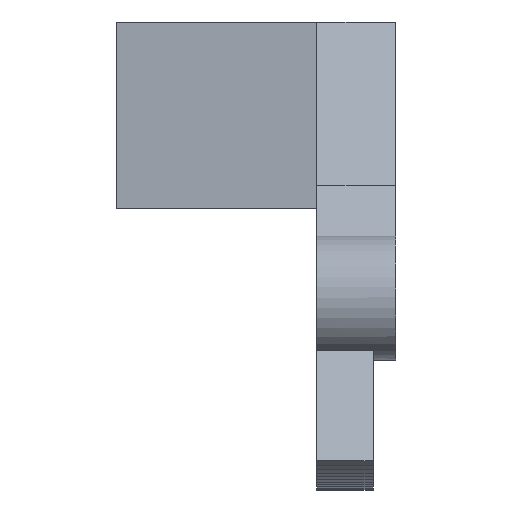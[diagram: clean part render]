
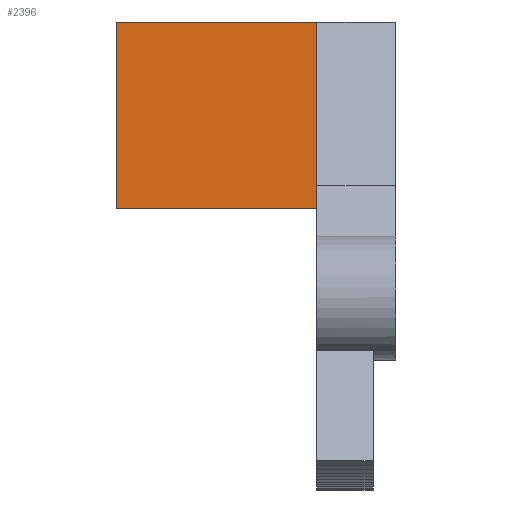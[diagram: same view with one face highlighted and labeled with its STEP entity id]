
A CAD part, top view. The second image highlights one B-rep face of the part: STEP entity #2396.
In plain terms, the highlighted planar face has unit normal (0, 0, 1).
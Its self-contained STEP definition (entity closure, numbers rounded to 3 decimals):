
#102 = PLANE('',#103);
#103 = AXIS2_PLACEMENT_3D('',#104,#105,#106);
#104 = CARTESIAN_POINT('',(6.5,0.,0.));
#105 = DIRECTION('',(1.,-0.,-0.));
#106 = DIRECTION('',(0.,0.,-1.));
#328 = PLANE('',#329);
#329 = AXIS2_PLACEMENT_3D('',#330,#331,#332);
#330 = CARTESIAN_POINT('',(6.5,49.,-34.));
#331 = DIRECTION('',(-0.,1.,-0.));
#332 = DIRECTION('',(0.,0.,-1.));
#549 = VERTEX_POINT('',#550);
#550 = CARTESIAN_POINT('',(6.5,49.,-30.));
#571 = EDGE_CURVE('',#572,#549,#574,.T.);
#572 = VERTEX_POINT('',#573);
#573 = CARTESIAN_POINT('',(6.5,16.,-30.));
#574 = SURFACE_CURVE('',#575,(#579,#586),.PCURVE_S1.);
#575 = LINE('',#576,#577);
#576 = CARTESIAN_POINT('',(6.5,24.5,-30.));
#577 = VECTOR('',#578,1.);
#578 = DIRECTION('',(-0.,1.,-0.));
#579 = PCURVE('',#102,#580);
#580 = DEFINITIONAL_REPRESENTATION('',(#581),#585);
#581 = LINE('',#582,#583);
#582 = CARTESIAN_POINT('',(30.,24.5));
#583 = VECTOR('',#584,1.);
#584 = DIRECTION('',(-0.,1.));
#585 = ( GEOMETRIC_REPRESENTATION_CONTEXT(2) 
PARAMETRIC_REPRESENTATION_CONTEXT() REPRESENTATION_CONTEXT('2D SPACE',''
  ) );
#586 = PCURVE('',#587,#592);
#587 = PLANE('',#588);
#588 = AXIS2_PLACEMENT_3D('',#589,#590,#591);
#589 = CARTESIAN_POINT('',(-29.,49.,-30.));
#590 = DIRECTION('',(0.,0.,1.));
#591 = DIRECTION('',(-1.,0.,0.));
#592 = DEFINITIONAL_REPRESENTATION('',(#593),#597);
#593 = LINE('',#594,#595);
#594 = CARTESIAN_POINT('',(-35.5,24.5));
#595 = VECTOR('',#596,1.);
#596 = DIRECTION('',(-0.,-1.));
#597 = ( GEOMETRIC_REPRESENTATION_CONTEXT(2) 
PARAMETRIC_REPRESENTATION_CONTEXT() REPRESENTATION_CONTEXT('2D SPACE',''
  ) );
#615 = PLANE('',#616);
#616 = AXIS2_PLACEMENT_3D('',#617,#618,#619);
#617 = CARTESIAN_POINT('',(-29.,16.,-58.));
#618 = DIRECTION('',(0.,-1.,0.));
#619 = DIRECTION('',(0.,0.,-1.));
#2078 = EDGE_CURVE('',#2079,#549,#2081,.T.);
#2079 = VERTEX_POINT('',#2080);
#2080 = CARTESIAN_POINT('',(-29.,49.,-30.));
#2081 = SURFACE_CURVE('',#2082,(#2086,#2093),.PCURVE_S1.);
#2082 = LINE('',#2083,#2084);
#2083 = CARTESIAN_POINT('',(-29.,49.,-30.));
#2084 = VECTOR('',#2085,1.);
#2085 = DIRECTION('',(1.,0.,-0.));
#2086 = PCURVE('',#328,#2087);
#2087 = DEFINITIONAL_REPRESENTATION('',(#2088),#2092);
#2088 = LINE('',#2089,#2090);
#2089 = CARTESIAN_POINT('',(-4.,35.5));
#2090 = VECTOR('',#2091,1.);
#2091 = DIRECTION('',(-0.,-1.));
#2092 = ( GEOMETRIC_REPRESENTATION_CONTEXT(2) 
PARAMETRIC_REPRESENTATION_CONTEXT() REPRESENTATION_CONTEXT('2D SPACE',''
  ) );
#2093 = PCURVE('',#587,#2094);
#2094 = DEFINITIONAL_REPRESENTATION('',(#2095),#2099);
#2095 = LINE('',#2096,#2097);
#2096 = CARTESIAN_POINT('',(-0.,-0.));
#2097 = VECTOR('',#2098,1.);
#2098 = DIRECTION('',(-1.,0.));
#2099 = ( GEOMETRIC_REPRESENTATION_CONTEXT(2) 
PARAMETRIC_REPRESENTATION_CONTEXT() REPRESENTATION_CONTEXT('2D SPACE',''
  ) );
#2117 = PLANE('',#2118);
#2118 = AXIS2_PLACEMENT_3D('',#2119,#2120,#2121);
#2119 = CARTESIAN_POINT('',(-29.,49.,-58.));
#2120 = DIRECTION('',(1.,-0.,-0.));
#2121 = DIRECTION('',(0.,0.,-1.));
#2396 = ADVANCED_FACE('',(#2397),#587,.T.);
#2397 = FACE_BOUND('',#2398,.F.);
#2398 = EDGE_LOOP('',(#2399,#2422,#2443,#2444));
#2399 = ORIENTED_EDGE('',*,*,#2400,.F.);
#2400 = EDGE_CURVE('',#2401,#572,#2403,.T.);
#2401 = VERTEX_POINT('',#2402);
#2402 = CARTESIAN_POINT('',(-29.,16.,-30.));
#2403 = SURFACE_CURVE('',#2404,(#2408,#2415),.PCURVE_S1.);
#2404 = LINE('',#2405,#2406);
#2405 = CARTESIAN_POINT('',(-29.,16.,-30.));
#2406 = VECTOR('',#2407,1.);
#2407 = DIRECTION('',(1.,0.,-0.));
#2408 = PCURVE('',#587,#2409);
#2409 = DEFINITIONAL_REPRESENTATION('',(#2410),#2414);
#2410 = LINE('',#2411,#2412);
#2411 = CARTESIAN_POINT('',(-0.,33.));
#2412 = VECTOR('',#2413,1.);
#2413 = DIRECTION('',(-1.,0.));
#2414 = ( GEOMETRIC_REPRESENTATION_CONTEXT(2) 
PARAMETRIC_REPRESENTATION_CONTEXT() REPRESENTATION_CONTEXT('2D SPACE',''
  ) );
#2415 = PCURVE('',#615,#2416);
#2416 = DEFINITIONAL_REPRESENTATION('',(#2417),#2421);
#2417 = LINE('',#2418,#2419);
#2418 = CARTESIAN_POINT('',(-28.,0.));
#2419 = VECTOR('',#2420,1.);
#2420 = DIRECTION('',(-0.,1.));
#2421 = ( GEOMETRIC_REPRESENTATION_CONTEXT(2) 
PARAMETRIC_REPRESENTATION_CONTEXT() REPRESENTATION_CONTEXT('2D SPACE',''
  ) );
#2422 = ORIENTED_EDGE('',*,*,#2423,.F.);
#2423 = EDGE_CURVE('',#2079,#2401,#2424,.T.);
#2424 = SURFACE_CURVE('',#2425,(#2429,#2436),.PCURVE_S1.);
#2425 = LINE('',#2426,#2427);
#2426 = CARTESIAN_POINT('',(-29.,49.,-30.));
#2427 = VECTOR('',#2428,1.);
#2428 = DIRECTION('',(0.,-1.,0.));
#2429 = PCURVE('',#587,#2430);
#2430 = DEFINITIONAL_REPRESENTATION('',(#2431),#2435);
#2431 = LINE('',#2432,#2433);
#2432 = CARTESIAN_POINT('',(-0.,-0.));
#2433 = VECTOR('',#2434,1.);
#2434 = DIRECTION('',(-0.,1.));
#2435 = ( GEOMETRIC_REPRESENTATION_CONTEXT(2) 
PARAMETRIC_REPRESENTATION_CONTEXT() REPRESENTATION_CONTEXT('2D SPACE',''
  ) );
#2436 = PCURVE('',#2117,#2437);
#2437 = DEFINITIONAL_REPRESENTATION('',(#2438),#2442);
#2438 = LINE('',#2439,#2440);
#2439 = CARTESIAN_POINT('',(-28.,0.));
#2440 = VECTOR('',#2441,1.);
#2441 = DIRECTION('',(-0.,-1.));
#2442 = ( GEOMETRIC_REPRESENTATION_CONTEXT(2) 
PARAMETRIC_REPRESENTATION_CONTEXT() REPRESENTATION_CONTEXT('2D SPACE',''
  ) );
#2443 = ORIENTED_EDGE('',*,*,#2078,.T.);
#2444 = ORIENTED_EDGE('',*,*,#571,.F.);
